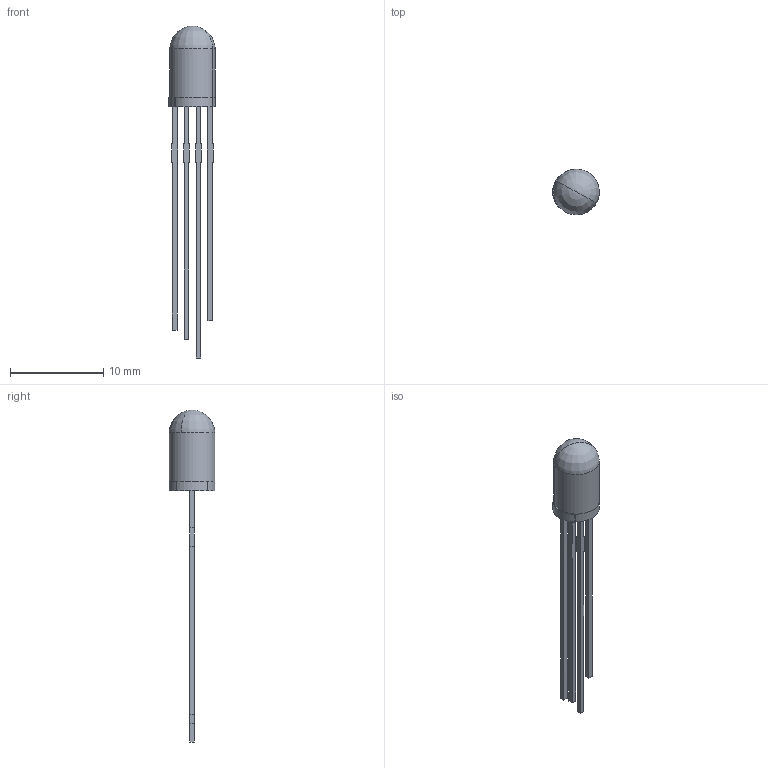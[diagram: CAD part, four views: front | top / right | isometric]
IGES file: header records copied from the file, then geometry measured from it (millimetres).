
Start section: START RECORD GO HERE.
Global section: file name: LED_RGB.igs; native system: DASSAULT SYSTEMES CATIA V5 R21 - www.3ds.com; preprocessor: CATIA Version 5 Release 21 SP 3 ; author: Fernan; organization: Fernan-PC; date: 20161204.141817; units: millimetre
Bounding box: 5 x 4.9 x 35.65 mm (x, y, z)
Surface area: 502.4 mm2 (no closed solid volume)
Topology: 0 solids, 0 shells, 73 faces, 354 edges, 350 vertices
Faces by surface type: plane 62, revolution 11
